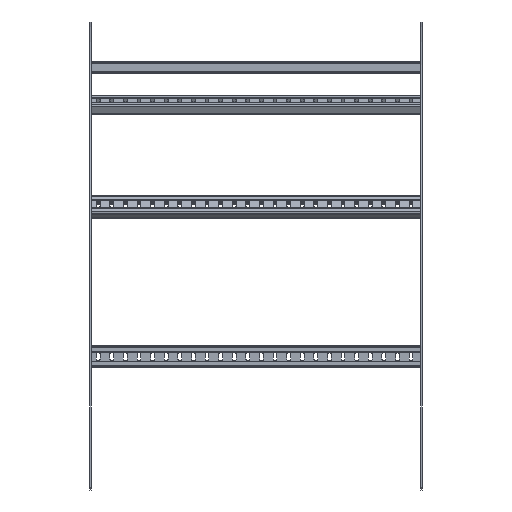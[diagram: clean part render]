
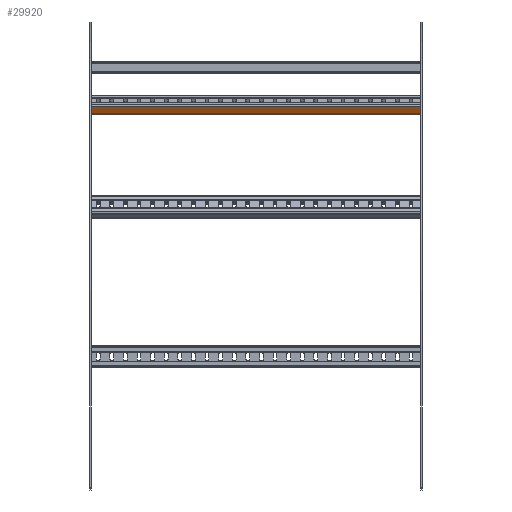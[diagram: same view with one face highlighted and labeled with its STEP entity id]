
A CAD part, left-side view. The second image highlights one B-rep face of the part: STEP entity #29920.
In plain terms, the highlighted planar face has unit normal (-0.866, 0, -0.5) as drawn and (-1, 0, 0) by its records, which use the part's own axes.
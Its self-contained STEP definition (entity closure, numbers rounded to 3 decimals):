
#27020=CARTESIAN_POINT('',(0.,896.5,-202.5));
#27030=VERTEX_POINT('',#27020);
#27060=CARTESIAN_POINT('',(0.,0.,-202.5));
#27070=DIRECTION('',(0.,1.,0.));
#27080=VECTOR('',#27070,1.);
#27090=LINE('',#27060,#27080);
#27100=CARTESIAN_POINT('',(0.,881.5,-202.5));
#27110=VERTEX_POINT('',#27100);
#27120=EDGE_CURVE('',#27110,#27030,#27090,.T.);
#29620=CARTESIAN_POINT('',(0.,878.,40.));
#29630=DIRECTION('',(-1.,0.,0.));
#29640=DIRECTION('',(0.,1.,0.));
#29650=AXIS2_PLACEMENT_3D('',#29620,#29630,#29640);
#29660=PLANE('',#29650);
#29670=CARTESIAN_POINT('',(0.,881.5,40.));
#29680=DIRECTION('',(0.,0.,1.));
#29690=VECTOR('',#29680,1.);
#29700=LINE('',#29670,#29690);
#29710=CARTESIAN_POINT('',(0.,881.5,402.5));
#29720=VERTEX_POINT('',#29710);
#29730=EDGE_CURVE('',#27110,#29720,#29700,.T.);
#29740=ORIENTED_EDGE('',*,*,#29730,.T.);
#29750=ORIENTED_EDGE('',*,*,#27120,.F.);
#29760=CARTESIAN_POINT('',(0.,896.5,40.));
#29770=DIRECTION('',(0.,0.,1.));
#29780=VECTOR('',#29770,1.);
#29790=LINE('',#29760,#29780);
#29800=CARTESIAN_POINT('',(0.,896.5,402.5));
#29810=VERTEX_POINT('',#29800);
#29820=EDGE_CURVE('',#27030,#29810,#29790,.T.);
#29830=ORIENTED_EDGE('',*,*,#29820,.F.);
#29840=CARTESIAN_POINT('',(0.,0.,402.5));
#29850=DIRECTION('',(0.,-1.,0.));
#29860=VECTOR('',#29850,1.);
#29870=LINE('',#29840,#29860);
#29880=EDGE_CURVE('',#29810,#29720,#29870,.T.);
#29890=ORIENTED_EDGE('',*,*,#29880,.F.);
#29900=EDGE_LOOP('',(#29890,#29830,#29750,#29740));
#29910=FACE_OUTER_BOUND('',#29900,.T.);
#29920=ADVANCED_FACE('',(#29910),#29660,.T.);
